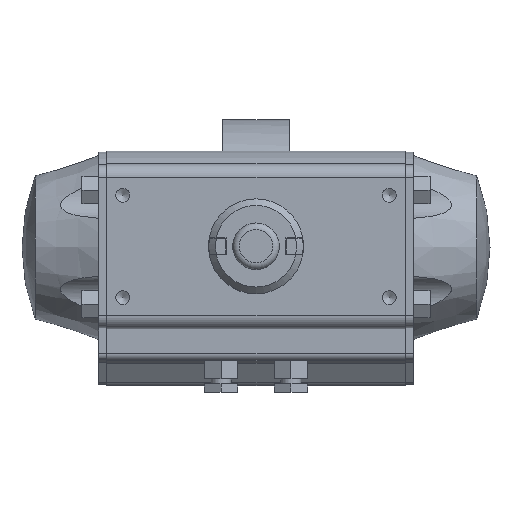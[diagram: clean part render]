
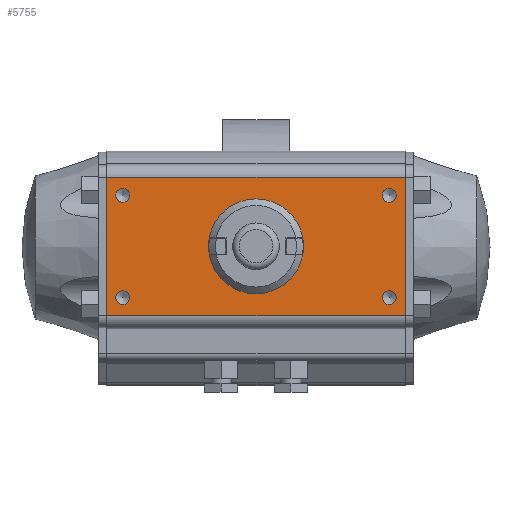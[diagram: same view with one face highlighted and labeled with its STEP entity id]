
A CAD part, top view. The second image highlights one B-rep face of the part: STEP entity #5755.
In plain terms, the highlighted planar face has unit normal (0, 0, 1).
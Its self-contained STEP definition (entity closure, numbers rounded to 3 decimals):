
#125=FACE_BOUND('',#989,.T.);
#126=FACE_BOUND('',#990,.T.);
#127=FACE_BOUND('',#991,.T.);
#128=FACE_BOUND('',#992,.T.);
#129=FACE_BOUND('',#993,.T.);
#130=FACE_BOUND('',#994,.T.);
#179=CIRCLE('',#5956,2.067);
#181=CIRCLE('',#5960,2.067);
#183=CIRCLE('',#5964,2.067);
#185=CIRCLE('',#5968,2.067);
#203=CIRCLE('',#6015,7.);
#989=EDGE_LOOP('',(#4870));
#990=EDGE_LOOP('',(#4871));
#991=EDGE_LOOP('',(#4872));
#992=EDGE_LOOP('',(#4873));
#993=EDGE_LOOP('',(#4874));
#994=EDGE_LOOP('',(#4875,#4876,#4877,#4878));
#1583=LINE('',#9442,#2179);
#1590=LINE('',#9465,#2186);
#1591=LINE('',#9468,#2187);
#1592=LINE('',#9469,#2188);
#2179=VECTOR('',#7638,41.5);
#2186=VECTOR('',#7661,89.5);
#2187=VECTOR('',#7664,89.5);
#2188=VECTOR('',#7665,41.5);
#2438=VERTEX_POINT('',#8469);
#2440=VERTEX_POINT('',#8475);
#2442=VERTEX_POINT('',#8481);
#2444=VERTEX_POINT('',#8487);
#2490=VERTEX_POINT('',#8644);
#2698=VERTEX_POINT('',#9439);
#2699=VERTEX_POINT('',#9441);
#2706=VERTEX_POINT('',#9461);
#2708=VERTEX_POINT('',#9467);
#3057=EDGE_CURVE('',#2438,#2438,#179,.T.);
#3059=EDGE_CURVE('',#2440,#2440,#181,.T.);
#3061=EDGE_CURVE('',#2442,#2442,#183,.T.);
#3063=EDGE_CURVE('',#2444,#2444,#185,.T.);
#3129=EDGE_CURVE('',#2490,#2490,#203,.T.);
#3436=EDGE_CURVE('',#2698,#2699,#1583,.T.);
#3448=EDGE_CURVE('',#2699,#2706,#1590,.T.);
#3449=EDGE_CURVE('',#2708,#2698,#1591,.T.);
#3450=EDGE_CURVE('',#2708,#2706,#1592,.T.);
#4870=ORIENTED_EDGE('',*,*,#3057,.T.);
#4871=ORIENTED_EDGE('',*,*,#3059,.T.);
#4872=ORIENTED_EDGE('',*,*,#3061,.T.);
#4873=ORIENTED_EDGE('',*,*,#3063,.T.);
#4874=ORIENTED_EDGE('',*,*,#3129,.T.);
#4875=ORIENTED_EDGE('',*,*,#3448,.F.);
#4876=ORIENTED_EDGE('',*,*,#3436,.F.);
#4877=ORIENTED_EDGE('',*,*,#3449,.F.);
#4878=ORIENTED_EDGE('',*,*,#3450,.T.);
#5200=PLANE('',#6202);
#5755=ADVANCED_FACE('',(#125,#126,#127,#128,#129,#130),#5200,.T.);
#5956=AXIS2_PLACEMENT_3D('',#8470,#6889,#6890);
#5960=AXIS2_PLACEMENT_3D('',#8476,#6897,#6898);
#5964=AXIS2_PLACEMENT_3D('',#8482,#6905,#6906);
#5968=AXIS2_PLACEMENT_3D('',#8488,#6913,#6914);
#6015=AXIS2_PLACEMENT_3D('',#8645,#7047,#7048);
#6202=AXIS2_PLACEMENT_3D('',#9466,#7662,#7663);
#6889=DIRECTION('center_axis',(0.,0.,-1.));
#6890=DIRECTION('ref_axis',(1.,0.,0.));
#6897=DIRECTION('center_axis',(0.,0.,-1.));
#6898=DIRECTION('ref_axis',(1.,0.,0.));
#6905=DIRECTION('center_axis',(0.,0.,-1.));
#6906=DIRECTION('ref_axis',(1.,0.,0.));
#6913=DIRECTION('center_axis',(0.,0.,-1.));
#6914=DIRECTION('ref_axis',(1.,0.,0.));
#7047=DIRECTION('center_axis',(0.,0.,-1.));
#7048=DIRECTION('ref_axis',(-1.,0.,0.));
#7638=DIRECTION('',(0.,1.,0.));
#7661=DIRECTION('',(1.,0.,0.));
#7662=DIRECTION('center_axis',(0.,0.,1.));
#7663=DIRECTION('ref_axis',(1.,0.,0.));
#7664=DIRECTION('',(-1.,0.,0.));
#7665=DIRECTION('',(0.,1.,0.));
#8469=CARTESIAN_POINT('',(86.817,15.6,34.5));
#8470=CARTESIAN_POINT('Origin',(84.75,15.6,34.5));
#8475=CARTESIAN_POINT('',(6.817,15.6,34.5));
#8476=CARTESIAN_POINT('Origin',(4.75,15.6,34.5));
#8481=CARTESIAN_POINT('',(86.817,-15.1,34.5));
#8482=CARTESIAN_POINT('Origin',(84.75,-15.1,34.5));
#8487=CARTESIAN_POINT('',(6.817,-15.1,34.5));
#8488=CARTESIAN_POINT('Origin',(4.75,-15.1,34.5));
#8644=CARTESIAN_POINT('',(51.75,0.25,34.5));
#8645=CARTESIAN_POINT('Origin',(44.75,0.25,34.5));
#9439=CARTESIAN_POINT('',(0.,-20.5,34.5));
#9441=CARTESIAN_POINT('',(0.,21.,34.5));
#9442=CARTESIAN_POINT('',(0.,-24.5,34.5));
#9461=CARTESIAN_POINT('',(89.5,21.,34.5));
#9465=CARTESIAN_POINT('',(0.,21.,34.5));
#9466=CARTESIAN_POINT('Origin',(0.,-24.5,34.5));
#9467=CARTESIAN_POINT('',(89.5,-20.5,34.5));
#9468=CARTESIAN_POINT('',(0.,-20.5,34.5));
#9469=CARTESIAN_POINT('',(89.5,-24.5,34.5));
